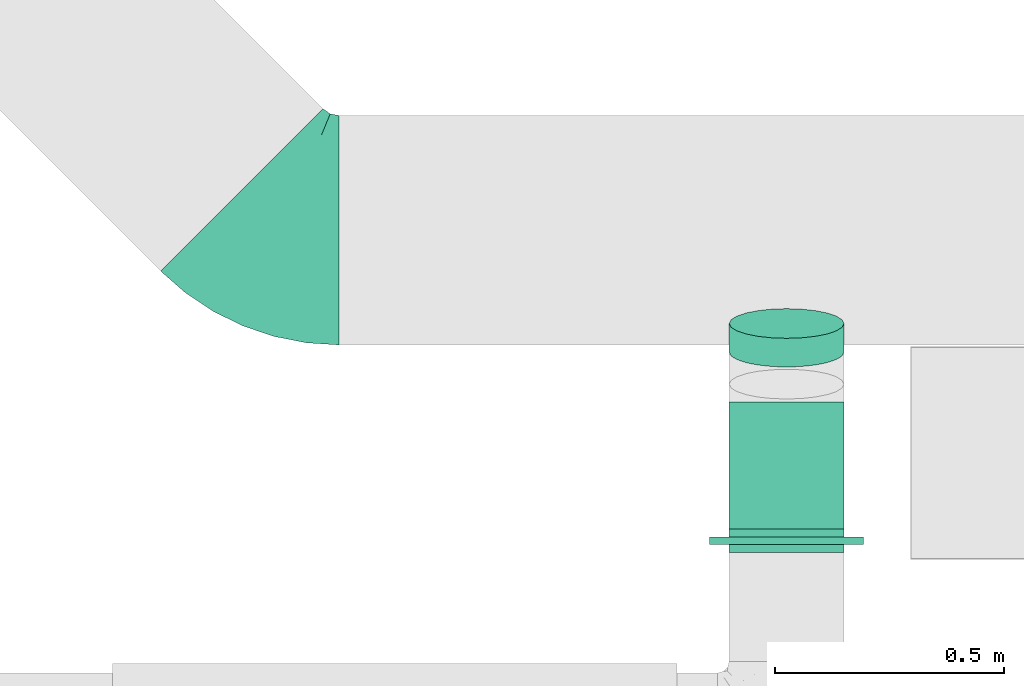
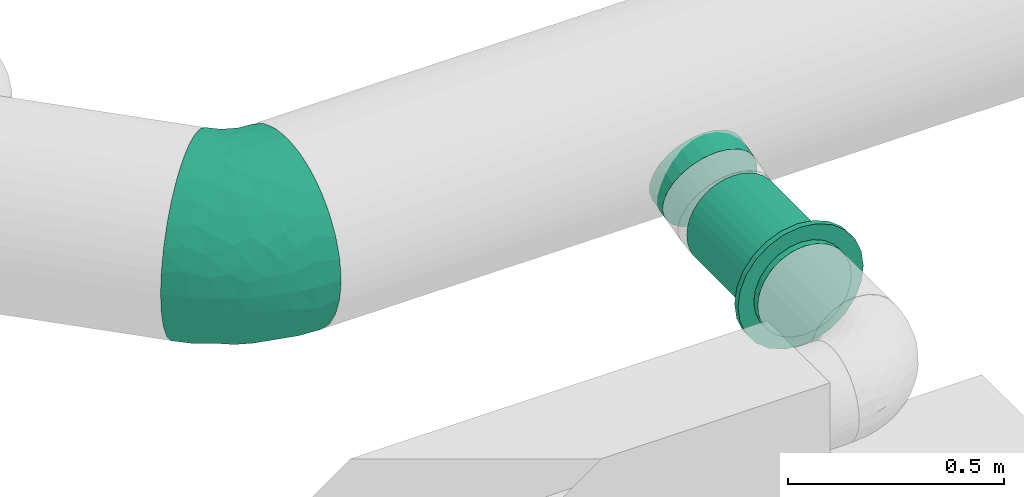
# One storey, part 17 of 31: 2 flow fittings, 1 flow controller, 1 flow segment.
"""IFC2X3 building model written with IfcOpenShell, lengths in millimetres."""

from ifc_helpers import new_model, entity, si_unit, converted_unit, derived_unit, direction, frame, origin_with_axes, origin_2d_with_axis, place, context, subcontext, project, spatial, hollow_circle, extrude, open_shell, surface_model, source, transform, mapped, type_object, element, save


model = new_model("IFC2X3")

# Units and contexts
model_context = context("Model", 3, precision=0.01, world=frame((0.0, 4.29681676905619e-09, 0.0)), true_north=direction((4.01073788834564e-13, 1.0)))
plan_context = context("Plan", 3, precision=0.01, world=frame((0.0, 4.29681676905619e-09, 0.0)), true_north=direction((4.01073788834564e-13, 1.0)))
body_context = subcontext(model_context, "Body", "Model", "MODEL_VIEW")
ifc_project = project(units=[converted_unit("PLANEANGLEUNIT", "DEGREE", entity("IfcPositiveLengthMeasure", 0.0174532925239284), si_unit("PLANEANGLEUNIT", "RADIAN"), dimensions=[0, 0, 0, 0, 0, 0, 0]), si_unit("AREAUNIT", "SQUARE_METRE"), si_unit("LENGTHUNIT", "METRE", prefix="MILLI"), si_unit("MASSUNIT", "GRAM", prefix="KILO"), si_unit("POWERUNIT", "WATT"), si_unit("PRESSUREUNIT", "PASCAL", prefix="KILO"), si_unit("FORCEUNIT", "NEWTON", prefix="KILO"), si_unit("ELECTRICVOLTAGEUNIT", "VOLT"), si_unit("ELECTRICCURRENTUNIT", "AMPERE"), si_unit("THERMODYNAMICTEMPERATUREUNIT", "DEGREE_CELSIUS"), si_unit("TIMEUNIT", "SECOND"), si_unit("VOLUMEUNIT", "CUBIC_METRE"), derived_unit("LINEARVELOCITYUNIT", [(si_unit("LENGTHUNIT", "METRE"), 1), (si_unit("TIMEUNIT", "SECOND"), -1)]), derived_unit("VOLUMETRICFLOWRATEUNIT", [(si_unit("VOLUMEUNIT", "CUBIC_METRE"), 1), (si_unit("TIMEUNIT", "SECOND"), -1)]), derived_unit("THERMALTRANSMITTANCEUNIT", [(si_unit("POWERUNIT", "WATT"), 1), (si_unit("THERMODYNAMICTEMPERATUREUNIT", "KELVIN"), -1), (si_unit("AREAUNIT", "SQUARE_METRE"), -1)]), derived_unit("SOUNDPRESSUREUNIT", [(si_unit("PRESSUREUNIT", "PASCAL"), 1)])], contexts=[model_context, plan_context])

# Site, building, storey
site_placement = place(None, frame((0.0, -4.29681676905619e-09, 0.0), z_axis=(0.0, 0.0, 1.0), x_axis=(1.0, 0.0, 0.0)))
site = spatial("IfcSite", under=ifc_project, at=site_placement, CompositionType="ELEMENT")
building_placement = place(site_placement, frame((0.0, 4.29681676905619e-09, 0.0), z_axis=(0.0, 0.0, 1.0), x_axis=(1.0, 0.0, 0.0)))
building = spatial("IfcBuilding", under=site, at=building_placement, Name="mc-building", CompositionType="ELEMENT")
storey_placement = place(building_placement, frame((0.0, 0.0, 210900.0), z_axis=(0.0, 0.0, 1.0), x_axis=(1.0, 0.0, 0.0)))
storey = spatial("IfcBuildingStorey", under=building, at=storey_placement, Name="Nivå F", CompositionType="ELEMENT", Elevation=210900.0)

# Flow controller
damper_type = type_object("IfcDamperType", Name="IRIS-025", PredefinedType="BALANCINGDAMPER")
shared_shape_1 = source(origin_with_axes(), body_context, "Body", "SurfaceModel", [
    surface_model("IfcShellBasedSurfaceModel", [(26.0, 32.35238, -120.74073), (26.0, 62.5, -108.25318), (26.0, 88.38835, -88.38835), (26.0, 108.25318, -62.5), (26.0, 120.74073, -32.35238), (26.0, -120.74073, -32.35238), (26.0, -125.0, 0.0), (26.0, 0.0, -125.0), (26.0, -62.5, -108.25318), (26.0, -32.35238, -120.74073), (26.0, -108.25318, -62.5), (26.0, -88.38835, -88.38835), (26.0, 125.0, 0.0), (26.0, 120.74073, 32.35238), (26.0, 108.25318, 62.5), (26.0, 88.38835, 88.38835), (26.0, -32.35238, 120.74073), (26.0, 32.35238, 120.74073), (26.0, 0.0, 125.0), (26.0, 62.5, 108.25318), (26.0, -108.25318, 62.5), (26.0, -120.74073, 32.35238), (26.0, -88.38835, 88.38835), (26.0, -62.5, 108.25318), (7.8, 88.38835, 88.38835), (7.8, 0.0, 125.0), (7.8, 32.35238, 120.74073), (7.8, 62.5, 108.25318), (7.8, 108.25318, 62.5), (7.8, 120.74073, 32.35238), (7.8, -32.35238, 120.74073), (7.8, -120.74073, -32.35238), (7.8, -88.38835, 88.38835), (7.8, -62.5, 108.25318), (7.8, -108.25318, 62.5), (7.8, -125.0, 0.0), (7.8, -120.74073, 32.35238), (7.8, 120.74073, -32.35238), (7.8, 32.35238, -120.74073), (7.8, 88.38835, -88.38835), (7.8, 108.25318, -62.5), (7.8, 62.5, -108.25318), (7.8, -62.5, -108.25318), (7.8, -108.25318, -62.5), (7.8, -88.38835, -88.38835), (7.8, 0.0, -125.0), (7.8, -32.35238, -120.74073), (7.8, 125.0, 0.0), (7.8, 167.5, 0.0), (7.8, 43.35219, -161.79258), (7.8, 83.75, -145.05925), (7.8, 161.79258, -43.35219), (7.8, 118.44038, -118.44038), (7.8, 145.05925, -83.75), (7.8, -145.05925, -83.75), (7.8, 0.0, -167.5), (7.8, -83.75, -145.05925), (7.8, -43.35219, -161.79258), (7.8, -118.44038, -118.44038), (7.8, -161.79258, -43.35219), (7.8, 161.79258, 43.35219), (7.8, 145.05925, 83.75), (7.8, 118.44038, 118.44038), (7.8, 43.35219, 161.79258), (7.8, -145.05925, 83.75), (7.8, 83.75, 145.05925), (7.8, -43.35219, 161.79258), (7.8, 0.0, 167.5), (7.8, -161.79258, 43.35219), (7.8, -167.5, 0.0), (7.8, -118.44038, 118.44038), (7.8, -83.75, 145.05925), (-7.8, 43.35219, 161.79258), (-7.8, -43.35219, 161.79258), (-7.8, 0.0, 167.5), (-7.8, 118.44038, 118.44038), (-7.8, 83.75, 145.05925), (-7.8, 145.05925, 83.75), (-7.8, 161.79258, 43.35219), (-7.8, -145.05925, 83.75), (-7.8, -118.44038, 118.44038), (-7.8, -83.75, 145.05925), (-7.8, -167.5, 0.0), (-7.8, -161.79258, 43.35219), (-7.8, 161.79258, -43.35219), (-7.8, -145.05925, -83.75), (-7.8, 43.35219, -161.79258), (-7.8, 145.05925, -83.75), (-7.8, 118.44038, -118.44038), (-7.8, 83.75, -145.05925), (-7.8, -83.75, -145.05925), (-7.8, -118.44038, -118.44038), (-7.8, -161.79258, -43.35219), (-7.8, 0.0, -167.5), (-7.8, -43.35219, -161.79258), (-7.8, 167.5, 0.0), (-7.8, 32.35238, -120.74073), (-7.8, 62.5, -108.25318), (-7.8, 88.38835, -88.38835), (-7.8, 108.25318, -62.5), (-7.8, 120.74073, -32.35238), (-7.8, -120.74073, -32.35238), (-7.8, -125.0, 0.0), (-7.8, 0.0, -125.0), (-7.8, -62.5, -108.25318), (-7.8, -32.35238, -120.74073), (-7.8, -108.25318, -62.5), (-7.8, -88.38835, -88.38835), (-7.8, 125.0, 0.0), (-7.8, 120.74073, 32.35238), (-7.8, 108.25318, 62.5), (-7.8, 88.38835, 88.38835), (-7.8, -32.35238, 120.74073), (-7.8, 32.35238, 120.74073), (-7.8, 0.0, 125.0), (-7.8, 62.5, 108.25318), (-7.8, -108.25318, 62.5), (-7.8, -120.74073, 32.35238), (-7.8, -88.38835, 88.38835), (-7.8, -62.5, 108.25318), (-26.0, 88.38835, 88.38835), (-26.0, 0.0, 125.0), (-26.0, 32.35238, 120.74073), (-26.0, 62.5, 108.25318), (-26.0, 108.25318, 62.5), (-26.0, 120.74073, 32.35238), (-26.0, -32.35238, 120.74073), (-26.0, -120.74073, -32.35238), (-26.0, -88.38835, 88.38835), (-26.0, -62.5, 108.25318), (-26.0, -108.25318, 62.5), (-26.0, -125.0, 0.0), (-26.0, -120.74073, 32.35238), (-26.0, 120.74073, -32.35238), (-26.0, 32.35238, -120.74073), (-26.0, 88.38835, -88.38835), (-26.0, 108.25318, -62.5), (-26.0, 62.5, -108.25318), (-26.0, -62.5, -108.25318), (-26.0, -108.25318, -62.5), (-26.0, -88.38835, -88.38835), (-26.0, 0.0, -125.0), (-26.0, -32.35238, -120.74073), (-26.0, 125.0, 0.0)], [open_shell([[[0, 1, 2]], [[0, 2, 3]], [[0, 4, 5]], [[4, 0, 3]], [[6, 5, 4]], [[7, 8, 9]], [[7, 0, 8]], [[8, 10, 11]], [[10, 8, 5]], [[0, 5, 8]], [[4, 12, 6]], [[13, 14, 15]], [[16, 13, 15]], [[17, 18, 15]], [[17, 15, 19]], [[16, 15, 18]], [[6, 20, 21]], [[20, 6, 16]], [[22, 16, 23]], [[16, 22, 20]], [[6, 13, 16]], [[13, 6, 12]], [[24, 25, 26]], [[24, 26, 27]], [[24, 28, 29]], [[25, 24, 30]], [[31, 30, 24]], [[30, 32, 33]], [[32, 30, 34]], [[34, 35, 36]], [[35, 34, 30]], [[35, 30, 31]], [[31, 24, 29]], [[37, 38, 29]], [[39, 37, 40]], [[39, 41, 38]], [[39, 38, 37]], [[29, 38, 42]], [[43, 42, 44]], [[42, 43, 31]], [[42, 45, 46]], [[31, 29, 42]], [[38, 45, 42]], [[37, 29, 47]], [[31, 5, 35]], [[43, 10, 31]], [[8, 44, 42]], [[43, 44, 11]], [[9, 42, 46]], [[31, 10, 5]], [[5, 6, 35]], [[9, 8, 42]], [[11, 44, 8]], [[11, 10, 43]], [[7, 9, 46]], [[46, 45, 7]], [[38, 0, 45]], [[41, 1, 38]], [[3, 39, 40]], [[41, 39, 2]], [[4, 40, 37]], [[41, 2, 1]], [[1, 0, 38]], [[12, 4, 37]], [[3, 40, 4]], [[3, 2, 39]], [[47, 12, 37]], [[45, 0, 7]], [[29, 13, 47]], [[28, 14, 29]], [[19, 24, 27]], [[28, 24, 15]], [[17, 27, 26]], [[29, 14, 13]], [[13, 12, 47]], [[17, 19, 27]], [[15, 24, 19]], [[15, 14, 28]], [[18, 17, 26]], [[26, 25, 18]], [[16, 25, 30]], [[33, 23, 30]], [[20, 34, 36]], [[21, 36, 35]], [[33, 22, 23]], [[23, 16, 30]], [[32, 20, 22]], [[32, 34, 20]], [[20, 36, 21]], [[35, 6, 21]], [[32, 22, 33]], [[25, 16, 18]], [[48, 49, 50]], [[51, 50, 52]], [[51, 48, 50]], [[51, 52, 53]], [[49, 48, 54]], [[55, 56, 57]], [[55, 49, 56]], [[56, 54, 58]], [[49, 54, 56]], [[48, 59, 54]], [[48, 60, 59]], [[60, 61, 62]], [[60, 62, 63]], [[60, 63, 64]], [[63, 62, 65]], [[66, 63, 67]], [[59, 68, 69]], [[64, 68, 59]], [[70, 66, 71]], [[66, 70, 64]], [[63, 66, 64]], [[64, 59, 60]], [[72, 73, 74]], [[75, 72, 76]], [[75, 77, 78]], [[75, 78, 72]], [[79, 72, 78]], [[73, 80, 81]], [[80, 73, 79]], [[79, 82, 83]], [[79, 73, 72]], [[78, 82, 79]], [[78, 84, 82]], [[82, 84, 85]], [[86, 84, 87]], [[88, 89, 86]], [[88, 86, 87]], [[85, 84, 86]], [[85, 90, 91]], [[92, 82, 85]], [[90, 93, 94]], [[90, 85, 86]], [[93, 90, 86]], [[84, 78, 95]], [[92, 59, 82]], [[85, 54, 92]], [[56, 91, 90]], [[85, 91, 58]], [[57, 90, 94]], [[92, 54, 59]], [[59, 69, 82]], [[57, 56, 90]], [[58, 91, 56]], [[58, 54, 85]], [[55, 57, 94]], [[94, 93, 55]], [[86, 49, 93]], [[89, 50, 86]], [[53, 88, 87]], [[89, 88, 52]], [[51, 87, 84]], [[89, 52, 50]], [[50, 49, 86]], [[48, 51, 84]], [[53, 87, 51]], [[53, 52, 88]], [[95, 48, 84]], [[93, 49, 55]], [[78, 60, 95]], [[77, 61, 78]], [[65, 75, 76]], [[77, 75, 62]], [[63, 76, 72]], [[78, 61, 60]], [[60, 48, 95]], [[63, 65, 76]], [[62, 75, 65]], [[62, 61, 77]], [[67, 63, 72]], [[72, 74, 67]], [[74, 73, 66]], [[64, 79, 83]], [[79, 70, 80]], [[68, 83, 82]], [[73, 71, 66]], [[71, 73, 81]], [[71, 81, 70]], [[81, 80, 70]], [[79, 64, 70]], [[68, 64, 83]], [[82, 69, 68]], [[74, 66, 67]], [[96, 97, 98]], [[96, 98, 99]], [[96, 100, 101]], [[100, 96, 99]], [[102, 101, 100]], [[103, 104, 105]], [[103, 96, 104]], [[104, 106, 107]], [[106, 104, 101]], [[96, 101, 104]], [[100, 108, 102]], [[109, 110, 111]], [[112, 109, 111]], [[113, 114, 111]], [[113, 111, 115]], [[112, 111, 114]], [[102, 116, 117]], [[116, 102, 112]], [[118, 112, 119]], [[112, 118, 116]], [[102, 109, 112]], [[109, 102, 108]], [[120, 121, 122]], [[120, 122, 123]], [[120, 124, 125]], [[121, 120, 126]], [[127, 126, 120]], [[126, 128, 129]], [[128, 126, 130]], [[130, 131, 132]], [[131, 130, 126]], [[131, 126, 127]], [[127, 120, 125]], [[133, 134, 125]], [[135, 133, 136]], [[135, 137, 134]], [[135, 134, 133]], [[125, 134, 138]], [[139, 138, 140]], [[138, 139, 127]], [[138, 141, 142]], [[127, 125, 138]], [[134, 141, 138]], [[133, 125, 143]], [[127, 101, 131]], [[139, 106, 127]], [[104, 140, 138]], [[139, 140, 107]], [[105, 138, 142]], [[127, 106, 101]], [[101, 102, 131]], [[105, 104, 138]], [[107, 140, 104]], [[107, 106, 139]], [[103, 105, 142]], [[142, 141, 103]], [[134, 96, 141]], [[137, 97, 134]], [[99, 135, 136]], [[137, 135, 98]], [[100, 136, 133]], [[137, 98, 97]], [[97, 96, 134]], [[108, 100, 133]], [[99, 136, 100]], [[99, 98, 135]], [[143, 108, 133]], [[141, 96, 103]], [[125, 109, 143]], [[124, 110, 125]], [[115, 120, 123]], [[124, 120, 111]], [[113, 123, 122]], [[125, 110, 109]], [[109, 108, 143]], [[113, 115, 123]], [[111, 120, 115]], [[111, 110, 124]], [[114, 113, 122]], [[122, 121, 114]], [[112, 121, 126]], [[129, 119, 126]], [[116, 130, 132]], [[117, 132, 131]], [[129, 118, 119]], [[119, 112, 126]], [[128, 116, 118]], [[128, 130, 116]], [[116, 132, 117]], [[131, 102, 117]], [[128, 118, 129]], [[121, 112, 114]]])]),
])
flow_controller_placement = place(storey_placement, frame((724493.89393, 437818.15978, 3855.0), z_axis=(0.0, 0.0, 1.0), x_axis=(0.0, 1.0, 0.0)))
element("IfcFlowController", 1, at=flow_controller_placement, inside=storey, type_object=damper_type, Name="IRIS-025", context=body_context, shape_type="MappedRepresentation", body=[
    mapped(shared_shape_1, transform((0.0, 0.0, 0.0), scale=1.0)),
])

# Flow fittings
duct_fitting_type_1 = type_object("IfcDuctFittingType", Name="magicirc_elbow_short_001", PredefinedType="BEND")
shared_shape_2 = source(origin_with_axes(), body_context, "Body", "SurfaceModel", [
    surface_model("IfcShellBasedSurfaceModel", [(-124.26407, 0.0, -250.0), (-124.26407, -108.47093, -225.24221), (-124.26407, 55.63023, -243.73198), (-124.26407, 108.47093, -225.24221), (-124.26407, 155.87244, -195.45787), (-124.26407, 195.45787, -155.87244), (-124.26407, 243.73198, -55.63023), (-124.26407, 225.24221, -108.47093), (-124.26407, -250.0, 0.0), (-124.26407, -243.73198, 55.63023), (-124.26407, -155.87244, -195.45787), (-124.26407, -55.63023, -243.73198), (-124.26407, -225.24221, -108.47093), (-124.26407, -195.45787, -155.87244), (-124.26407, -243.73198, -55.63023), (-124.26407, 225.24221, 108.47093), (-124.26407, 243.73198, 55.63023), (-124.26407, 250.0, 0.0), (-124.26407, 195.45787, 155.87244), (-124.26407, 155.87244, 195.45787), (-124.26407, -195.45787, 155.87244), (-124.26407, 108.47093, 225.24221), (-124.26407, 55.63023, 243.73198), (-124.26407, 0.0, 250.0), (-124.26407, -225.24221, 108.47093), (-124.26407, -108.47093, 225.24221), (-124.26407, -55.63023, 243.73198), (-124.26407, -155.87244, 195.45787), (48.53145, 127.20448, -243.73198), (127.20448, 48.53145, -243.73198), (87.86797, 87.86797, -250.0), (-50.34162, 226.07755, -155.87244), (11.16743, 164.5685, -225.24221), (-71.40233, 247.13826, -108.47093), (-84.47657, 260.2125, -55.63023), (-22.3505, 198.08644, -195.45787), (-50.34162, 226.07755, 155.87244), (247.13826, -71.40233, -108.47093), (198.08644, -22.3505, -195.45787), (164.5685, 11.16743, -225.24221), (226.07755, -50.34162, -155.87244), (264.64466, -88.90873, 0.0), (260.2125, -84.47657, -55.63023), (-22.3505, 198.08644, 195.45787), (-71.40233, 247.13826, 108.47093), (-84.47657, 260.2125, 55.63023), (11.16743, 164.5685, 225.24221), (48.53145, 127.20448, 243.73198), (87.86797, 87.86797, 250.0), (247.13826, -71.40233, 108.47093), (164.5685, 11.16743, 225.24221), (226.07755, -50.34162, 155.87244), (260.2125, -84.47657, 55.63023), (127.20448, 48.53145, 243.73198), (198.08644, -22.3505, 195.45787), (-88.90873, 264.64466, 0.0), (-90.45276, 124.02841, 218.87221), (-91.29459, 169.55488, 187.41752), (-98.68552, -248.32349, 0.0), (-69.42755, -238.38074, 65.87002), (153.34237, -48.71188, 203.14038), (-52.47466, -245.29468, 0.0), (-76.6666, -216.92271, 120.37881), (-22.89006, -216.92012, 105.24681), (217.65332, -119.46794, 65.87002), (180.64533, -156.32916, 0.0), (210.55472, -136.34434, 0.0), (-60.85928, -185.74402, 162.63886), (-73.98493, -142.87393, 203.14038), (-83.39213, 71.51366, 240.60628), (-67.30817, 13.9977, 249.85946), (73.43929, -100.41393, 202.53266), (13.85174, -54.30021, 236.76331), (26.85313, -105.62493, 211.77383), (-79.75907, -93.02021, 231.02734), (18.08641, -231.25921, 0.0), (31.47339, -218.76937, 64.10343), (-12.38539, -232.71705, 52.90321), (-50.05253, 120.83747, 226.38), (-55.33839, 184.44843, 187.41754), (8.39934, 109.53494, 240.60626), (118.79401, -188.00815, 48.81791), (86.21182, -208.13373, 0.0), (118.47387, -192.22386, 0.0), (-76.90491, -39.94821, 246.23375), (174.37486, -88.30686, 162.63886), (82.62762, 26.13229, 246.23375), (37.69616, 57.49191, 249.85946), (-97.69053, 235.8458, 96.65448), (-103.71583, 250.39217, 42.8242), (-105.12989, 253.80602, 0.0), (-23.74157, 151.66109, 218.87221), (-31.90323, -27.98993, 246.65716), (-39.57952, 42.84314, 248.28201), (-86.07174, 207.79558, 149.73476), (36.6163, -190.48641, 125.53417), (57.55935, -141.01975, 176.52244), (-6.93499, -157.46464, 181.17025), (168.1542, -159.36852, 51.94573), (169.57139, -137.19997, 105.24681), (207.59899, -99.17604, 120.37881), (42.35083, 2.7671, 246.65716), (115.55917, -106.89858, 181.12833), (245.37243, -105.81003, 0.0), (-17.19413, -238.27693, 0.0), (-6.59652, 63.81406, 247.37605), (-12.71298, -191.00061, 145.19814), (121.99205, -9.63542, 230.99042), (137.83324, -132.71637, 141.78754), (105.44893, -165.89734, 119.75665), (137.26371, -165.70422, 87.69769), (-27.37301, -98.77366, 224.31491), (68.664, -168.11276, 141.19415), (-4.4639, 10.77677, 249.65902), (88.81264, -50.91073, 224.2359), (-38.98412, 82.5717, 241.00831), (150.73593, -176.31397, 0.0), (75.56208, -197.19449, 82.92058), (67.46947, -211.94417, 40.66553), (52.14911, -219.69647, 0.0), (-83.39213, 71.51366, -240.60628), (-67.30817, 13.9977, -249.85946), (174.37486, -88.30686, -162.63886), (-76.90491, -39.94821, -246.23375), (-12.71298, -191.00061, -145.19814), (-60.85928, -185.74402, -162.63886), (-6.93499, -157.46464, -181.17025), (-22.89006, -216.92012, -105.24681), (-97.69053, 235.8458, -96.65448), (-86.07174, 207.79558, -149.73476), (-73.98493, -142.87393, -203.14038), (153.34237, -48.71188, -203.14038), (115.55917, -106.89858, -181.12833), (88.81264, -50.91073, -224.2359), (-31.90323, -27.98993, -246.65716), (-4.4639, 10.77677, -249.65902), (28.42363, -48.05229, -236.8304), (-91.29459, 169.55488, -187.41752), (-103.71583, 250.39217, -42.8242), (-55.33839, 184.44843, -187.41754), (-40.45894, 49.78777, -247.37605), (-90.45276, 124.02841, -218.87221), (-69.42755, -238.38074, -65.87002), (-76.6666, -216.92271, -120.37881), (-50.05253, 120.83747, -226.38), (207.59899, -99.17604, -120.37881), (217.65332, -119.46794, -65.87002), (169.57139, -137.19997, -105.24681), (37.69616, 57.49191, -249.85946), (82.62762, 26.13229, -246.23375), (42.35083, 2.7671, -246.65716), (-20.90065, -234.14123, -54.21618), (31.47339, -218.76937, -64.10343), (-23.74157, 151.66109, -218.87221), (36.6163, -190.48641, -125.53417), (143.87468, -126.12906, -145.25502), (-79.75907, -93.02021, -231.02734), (-27.37301, -98.77366, -224.31491), (8.39934, 109.53494, -240.60626), (118.79401, -188.00815, -48.81791), (168.1542, -159.36852, -51.94573), (121.99205, -9.63542, -230.99042), (-2.30776, 58.28161, -248.28201), (75.56208, -197.19449, -82.92058), (10.81175, -84.87887, -225.51932), (55.02329, -94.04809, -211.73768), (17.87079, -122.84009, -202.87383), (-30.8211, 85.95292, -241.00831), (57.55935, -141.01975, -176.52244), (68.664, -168.11276, -141.19415), (105.44893, -165.89734, -119.75665), (137.26371, -165.70422, -87.69769), (67.46947, -211.94417, -40.66553)], [open_shell([[[0, 1, 2]], [[3, 2, 4]], [[5, 6, 7]], [[2, 6, 5]], [[5, 4, 2]], [[2, 8, 9]], [[1, 10, 2]], [[0, 11, 1]], [[12, 10, 13]], [[12, 14, 8]], [[12, 2, 10]], [[12, 8, 2]], [[9, 6, 2]], [[15, 16, 17]], [[18, 15, 17]], [[9, 19, 18]], [[20, 21, 19]], [[17, 9, 18]], [[22, 21, 23]], [[24, 20, 9]], [[20, 19, 9]], [[25, 26, 23]], [[25, 20, 27]], [[23, 20, 25]], [[20, 23, 21]], [[6, 9, 17]], [[28, 29, 30]], [[31, 28, 32]], [[33, 34, 31]], [[31, 34, 28]], [[32, 35, 31]], [[36, 37, 28]], [[29, 38, 39]], [[29, 28, 38]], [[40, 38, 37]], [[41, 42, 37]], [[37, 38, 28]], [[37, 43, 41]], [[44, 28, 34]], [[34, 45, 44]], [[28, 44, 36]], [[43, 46, 41]], [[41, 46, 47]], [[36, 43, 37]], [[47, 48, 41]], [[49, 50, 51]], [[52, 41, 49]], [[48, 53, 50]], [[54, 51, 50]], [[50, 49, 48]], [[48, 49, 41]], [[45, 34, 55]], [[56, 57, 19]], [[58, 59, 9]], [[60, 54, 50]], [[9, 59, 24]], [[61, 59, 58]], [[62, 59, 63]], [[20, 24, 62]], [[64, 65, 66]], [[67, 20, 62]], [[27, 67, 68]], [[69, 22, 70]], [[71, 72, 73]], [[26, 25, 74]], [[75, 76, 77]], [[78, 79, 57]], [[47, 46, 80]], [[81, 82, 83]], [[23, 70, 22]], [[23, 84, 70]], [[21, 56, 19]], [[69, 21, 22]], [[85, 51, 54]], [[86, 48, 87]], [[16, 15, 88]], [[89, 17, 16]], [[90, 17, 89]], [[78, 91, 79]], [[70, 92, 93]], [[15, 18, 94]], [[18, 19, 57]], [[57, 94, 18]], [[63, 76, 95]], [[96, 97, 95]], [[91, 80, 46]], [[23, 26, 84]], [[27, 68, 25]], [[85, 54, 60]], [[98, 64, 99]], [[88, 89, 16]], [[86, 53, 48]], [[94, 57, 79]], [[64, 52, 49]], [[100, 85, 99]], [[49, 51, 100]], [[87, 101, 86]], [[70, 84, 92]], [[85, 60, 102]], [[64, 103, 52]], [[61, 104, 77]], [[87, 80, 105]], [[36, 44, 94]], [[94, 44, 88]], [[100, 64, 49]], [[88, 45, 89]], [[106, 97, 67]], [[90, 89, 55]], [[50, 53, 107]], [[47, 87, 48]], [[36, 94, 79]], [[36, 79, 43]], [[108, 109, 110]], [[68, 97, 111]], [[112, 96, 95]], [[43, 91, 46]], [[87, 47, 80]], [[101, 113, 72]], [[101, 87, 113]], [[20, 67, 27]], [[107, 86, 114]], [[87, 105, 113]], [[74, 84, 26]], [[111, 72, 92]], [[93, 113, 105]], [[69, 115, 56]], [[97, 68, 67]], [[74, 68, 111]], [[106, 67, 63]], [[97, 96, 73]], [[64, 98, 65]], [[98, 81, 116]], [[95, 76, 117]], [[108, 85, 102]], [[107, 60, 50]], [[73, 96, 71]], [[114, 102, 60]], [[102, 96, 112]], [[94, 88, 15]], [[44, 45, 88]], [[59, 62, 24]], [[67, 62, 63]], [[85, 100, 51]], [[64, 100, 99]], [[79, 91, 43]], [[80, 91, 78]], [[69, 56, 21]], [[57, 56, 78]], [[86, 107, 53]], [[60, 107, 114]], [[68, 74, 25]], [[84, 74, 111]], [[78, 115, 80]], [[115, 69, 93]], [[115, 93, 105]], [[69, 70, 93]], [[92, 113, 93]], [[114, 86, 101]], [[73, 72, 111]], [[114, 101, 72]], [[111, 92, 84]], [[72, 113, 92]], [[118, 119, 82]], [[81, 117, 118]], [[80, 115, 105]], [[115, 78, 56]], [[77, 76, 63]], [[77, 59, 61]], [[116, 65, 98]], [[81, 110, 109]], [[110, 98, 99]], [[109, 112, 117]], [[119, 118, 76]], [[81, 109, 117]], [[97, 73, 111]], [[96, 102, 71]], [[102, 114, 71]], [[72, 71, 114]], [[9, 8, 58]], [[103, 64, 66]], [[103, 41, 52]], [[55, 89, 45]], [[63, 95, 106]], [[95, 97, 106]], [[117, 112, 95]], [[102, 112, 109]], [[85, 108, 99]], [[102, 109, 108]], [[76, 75, 119]], [[81, 118, 82]], [[76, 118, 117]], [[59, 77, 63]], [[75, 77, 104]], [[98, 110, 81]], [[116, 81, 83]], [[108, 110, 99]], [[120, 121, 2]], [[38, 40, 122]], [[11, 0, 123]], [[124, 125, 126]], [[2, 121, 0]], [[125, 124, 127]], [[7, 128, 129]], [[125, 130, 126]], [[131, 132, 133]], [[134, 135, 136]], [[137, 4, 5]], [[129, 137, 5]], [[138, 128, 6]], [[31, 35, 139]], [[121, 120, 140]], [[4, 141, 3]], [[12, 142, 14]], [[143, 142, 12]], [[142, 58, 14]], [[144, 137, 139]], [[12, 13, 143]], [[145, 146, 147]], [[10, 130, 125]], [[148, 149, 150]], [[151, 61, 142]], [[42, 41, 103]], [[75, 151, 152]], [[153, 139, 35]], [[127, 154, 152]], [[143, 125, 127]], [[30, 29, 149]], [[155, 132, 122]], [[17, 90, 138]], [[156, 123, 157]], [[55, 34, 138]], [[129, 139, 137]], [[7, 6, 128]], [[130, 10, 1]], [[146, 66, 65]], [[129, 5, 7]], [[35, 32, 153]], [[123, 0, 121]], [[156, 1, 11]], [[30, 149, 148]], [[148, 28, 30]], [[158, 32, 28]], [[116, 159, 160]], [[129, 31, 139]], [[33, 31, 129]], [[161, 29, 39]], [[122, 40, 145]], [[125, 13, 10]], [[148, 150, 162]], [[65, 116, 160]], [[152, 154, 163]], [[131, 38, 122]], [[146, 37, 42]], [[164, 165, 166]], [[146, 103, 66]], [[38, 131, 39]], [[144, 141, 137]], [[103, 146, 42]], [[121, 134, 123]], [[37, 145, 40]], [[158, 28, 148]], [[2, 3, 120]], [[121, 140, 135]], [[6, 17, 138]], [[134, 121, 135]], [[141, 120, 3]], [[161, 149, 29]], [[133, 136, 150]], [[162, 135, 140]], [[158, 167, 153]], [[156, 130, 1]], [[165, 168, 166]], [[157, 126, 130]], [[126, 168, 154]], [[169, 154, 168]], [[104, 151, 75]], [[169, 132, 170]], [[159, 171, 160]], [[132, 131, 122]], [[161, 131, 133]], [[122, 147, 155]], [[132, 168, 165]], [[34, 33, 128]], [[129, 128, 33]], [[125, 143, 13]], [[142, 143, 127]], [[146, 145, 37]], [[122, 145, 147]], [[137, 141, 4]], [[120, 141, 144]], [[158, 153, 32]], [[139, 153, 144]], [[123, 156, 11]], [[130, 156, 157]], [[131, 161, 39]], [[149, 161, 133]], [[144, 167, 120]], [[167, 158, 162]], [[167, 162, 140]], [[158, 148, 162]], [[150, 135, 162]], [[157, 123, 134]], [[165, 136, 133]], [[134, 136, 164]], [[133, 150, 149]], [[136, 135, 150]], [[154, 169, 163]], [[172, 152, 163]], [[120, 167, 140]], [[167, 144, 153]], [[127, 151, 142]], [[159, 116, 83]], [[65, 160, 146]], [[146, 160, 147]], [[152, 172, 119]], [[171, 159, 170]], [[132, 165, 133]], [[168, 126, 166]], [[126, 157, 166]], [[164, 166, 157]], [[170, 159, 163]], [[172, 159, 82]], [[134, 164, 157]], [[165, 164, 136]], [[58, 142, 61]], [[58, 8, 14]], [[55, 138, 90]], [[128, 138, 34]], [[126, 154, 124]], [[154, 127, 124]], [[132, 169, 168]], [[163, 169, 170]], [[171, 155, 147]], [[170, 132, 155]], [[119, 172, 82]], [[119, 75, 152]], [[159, 172, 163]], [[152, 151, 127]], [[61, 151, 104]], [[155, 171, 170]], [[82, 159, 83]], [[160, 171, 147]]])]),
])
flow_fitting_1_placement = place(storey_placement, frame((723394.38794, 438494.89839, 3950.0), z_axis=(0.0, 0.0, 1.0), x_axis=(0.707106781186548, -0.707106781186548, 0.0)))
element("IfcFlowFitting", 2, at=flow_fitting_1_placement, inside=storey, type_object=duct_fitting_type_1, Name="magicirc_elbow_short_001", context=body_context, shape_type="MappedRepresentation", body=[
    mapped(shared_shape_2, transform((0.0, 0.0, 0.0), scale=1.0)),
])
duct_fitting_type_2 = type_object("IfcDuctFittingType", Name="magicirc_tapoutlet_001", PredefinedType="CONNECTOR")
shared_shape_3 = source(origin_with_axes(), body_context, "Body", "SurfaceModel", [
    surface_model("IfcShellBasedSurfaceModel", [(-39.58965, -88.38835, -88.38835), (-39.58965, -108.25318, -62.5), (-39.58965, -125.0, 0.0), (-39.58965, -62.5, -108.25318), (-39.58965, 108.25318, -62.5), (-39.58965, 88.38835, -88.38835), (-39.58965, 120.74073, 32.35238), (-39.58965, 0.0, -125.0), (0.0, 0.0, -125.0), (0.0, -32.35238, -120.74073), (-39.58965, -32.35238, -120.74073), (0.0, -62.5, -108.25318), (0.0, 32.35238, -120.74073), (0.0, 62.5, -108.25318), (-39.58965, 32.35238, -120.74073), (-39.58965, 62.5, -108.25318), (-39.58965, -120.74073, 32.35238), (-39.58965, -120.74073, -32.35238), (-39.58965, 120.74073, -32.35238), (-39.58965, 108.25318, 62.5), (-39.58965, 62.5, 108.25318), (-39.58965, 32.35238, 120.74073), (-39.58965, -108.25318, 62.5), (-39.58965, -88.38835, 88.38835), (-39.58965, -32.35238, 120.74073), (-39.58965, 0.0, 125.0), (-39.58965, -62.5, 108.25318), (-39.58965, 125.0, 0.0), (0.0, 0.0, 125.0), (0.0, 32.35238, 120.74073), (0.0, 62.5, 108.25318), (0.0, 88.38835, 88.38835), (-39.58965, 88.38835, 88.38835), (0.0, 108.25318, 62.5), (0.0, 120.74073, 32.35238), (0.0, 125.0, 0.0), (0.0, 120.74073, -32.35238), (0.0, 108.25318, -62.5), (0.0, 88.38835, -88.38835), (0.0, -88.38835, -88.38835), (0.0, -108.25318, -62.5), (0.0, -120.74073, -32.35238), (0.0, -125.0, 0.0), (0.0, -120.74073, 32.35238), (0.0, -108.25318, 62.5), (0.0, -88.38835, 88.38835), (0.0, -62.5, 108.25318), (0.0, -32.35238, 120.74073), (25.0, 120.74073, 32.35238), (25.0, 0.0, -125.0), (25.0, 32.35238, -120.74073), (25.0, 62.5, -108.25318), (25.0, 125.0, 0.0), (25.0, 88.38835, -88.38835), (25.0, 108.25318, -62.5), (25.0, -88.38835, -88.38835), (25.0, -120.74073, 32.35238), (25.0, -62.5, -108.25318), (25.0, -32.35238, -120.74073), (25.0, -108.25318, -62.5), (25.0, -120.74073, -32.35238), (25.0, -125.0, 0.0), (25.0, 120.74073, -32.35238), (25.0, 108.25318, 62.5), (25.0, 88.38835, 88.38835), (25.0, 32.35238, 120.74073), (25.0, 62.5, 108.25318), (25.0, -62.5, 108.25318), (25.0, -108.25318, 62.5), (25.0, -88.38835, 88.38835), (25.0, -32.35238, 120.74073), (25.0, 0.0, 125.0)], [open_shell([[[0, 1, 2]], [[0, 2, 3]], [[4, 5, 6]], [[7, 8, 9]], [[10, 9, 11]], [[3, 10, 11]], [[12, 8, 7]], [[13, 12, 14]], [[13, 14, 15]], [[5, 6, 4]], [[7, 10, 14]], [[14, 6, 15]], [[15, 6, 5]], [[14, 2, 16]], [[14, 10, 3]], [[17, 2, 1]], [[3, 2, 14]], [[18, 4, 6]], [[19, 6, 14]], [[20, 14, 21]], [[22, 23, 14]], [[24, 25, 26]], [[23, 26, 25]], [[27, 18, 6]], [[25, 28, 29]], [[21, 29, 30]], [[25, 29, 21]], [[20, 31, 32]], [[20, 21, 30]], [[31, 20, 30]], [[19, 33, 34]], [[6, 34, 35]], [[32, 33, 19]], [[6, 19, 34]], [[27, 6, 35]], [[33, 32, 31]], [[27, 35, 36]], [[18, 36, 37]], [[27, 36, 18]], [[4, 38, 5]], [[4, 18, 37]], [[38, 4, 37]], [[5, 13, 15]], [[7, 14, 12]], [[13, 5, 38]], [[7, 9, 10]], [[3, 39, 0]], [[39, 3, 11]], [[1, 40, 41]], [[17, 41, 42]], [[0, 40, 1]], [[17, 1, 41]], [[2, 17, 42]], [[40, 0, 39]], [[2, 42, 43]], [[16, 43, 44]], [[2, 43, 16]], [[22, 45, 23]], [[22, 16, 44]], [[45, 22, 44]], [[26, 46, 47]], [[24, 47, 28]], [[23, 46, 26]], [[24, 26, 47]], [[25, 24, 28]], [[46, 23, 45]], [[20, 32, 14]], [[6, 5, 15]], [[19, 14, 32]], [[14, 25, 21]], [[14, 16, 22]], [[25, 14, 23]], [[48, 49, 50]], [[51, 52, 50]], [[52, 53, 54]], [[51, 53, 52]], [[55, 49, 56]], [[49, 55, 57]], [[57, 58, 49]], [[59, 56, 60]], [[55, 56, 59]], [[56, 61, 60]], [[52, 54, 62]], [[48, 63, 49]], [[49, 63, 64]], [[65, 49, 66]], [[49, 64, 66]], [[67, 49, 65]], [[68, 56, 49]], [[69, 68, 49]], [[67, 69, 49]], [[70, 67, 65]], [[65, 71, 70]], [[50, 52, 48]], [[28, 71, 65]], [[29, 65, 66]], [[28, 65, 29]], [[30, 64, 31]], [[30, 29, 66]], [[64, 30, 66]], [[33, 63, 48]], [[34, 48, 52]], [[31, 63, 33]], [[34, 33, 48]], [[35, 34, 52]], [[63, 31, 64]], [[35, 52, 62]], [[36, 62, 54]], [[35, 62, 36]], [[37, 53, 38]], [[37, 36, 54]], [[53, 37, 54]], [[50, 49, 8]], [[51, 50, 12]], [[38, 51, 13]], [[8, 12, 50]], [[51, 12, 13]], [[51, 38, 53]], [[8, 49, 58]], [[9, 58, 57]], [[8, 58, 9]], [[11, 55, 39]], [[11, 9, 57]], [[55, 11, 57]], [[40, 59, 60]], [[41, 60, 61]], [[39, 59, 40]], [[41, 40, 60]], [[42, 41, 61]], [[59, 39, 55]], [[42, 61, 56]], [[43, 56, 68]], [[42, 56, 43]], [[44, 69, 45]], [[44, 43, 68]], [[69, 44, 68]], [[46, 67, 70]], [[47, 70, 71]], [[45, 67, 46]], [[47, 46, 70]], [[28, 47, 71]], [[67, 45, 69]], [[52, 49, 50]], [[59, 55, 56]], [[61, 60, 56]], [[63, 64, 49]], [[64, 66, 65]], [[65, 49, 64]], [[69, 49, 67]], [[65, 70, 67]], [[52, 48, 49]], [[14, 21, 20]], [[21, 14, 25]]])]),
])
flow_fitting_2_placement = place(storey_placement, frame((724493.89393, 438253.41694, 3885.29524000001), z_axis=(0.0, 0.258818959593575, -0.965925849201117), x_axis=(0.0, -0.965925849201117, -0.258818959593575)))
element("IfcFlowFitting", 3, at=flow_fitting_2_placement, inside=storey, type_object=duct_fitting_type_2, Name="magicirc_tapoutlet_001", context=body_context, shape_type="MappedRepresentation", body=[
    mapped(shared_shape_3, transform((0.0, 0.0, 0.0), scale=1.0)),
])

# Flow segment
duct_segment_type = type_object("IfcDuctSegmentType", Name="KK001T - Spiro kanaler, Forsinket stål", PredefinedType="RIGIDSEGMENT")
shared_shape_4 = source(origin_with_axes(), body_context, "Body", "SweptSolid", [
    extrude(hollow_circle(Radius=125.0, WallThickness=2.0, at=origin_2d_with_axis()), frame((0.0, 0.0, 0.0), z_axis=(1.0, 0.0, 0.0), x_axis=(0.0, 1.0, 0.0)), (0.0, 0.0, 1.0), 276.4),
])
flow_segment_placement = place(storey_placement, frame((724493.89393, 437844.15978, 3855.0), z_axis=(0.0, 0.0, 1.0), x_axis=(0.0, 1.0, 0.0)))
element("IfcFlowSegment", 4, at=flow_segment_placement, inside=storey, type_object=duct_segment_type, Name="KK001T - Spiro kanaler, Forsinket stål", context=body_context, shape_type="MappedRepresentation", body=[
    mapped(shared_shape_4, transform((0.0, 0.0, 0.0), scale=1.0)),
])

save(model, "model.ifc")
